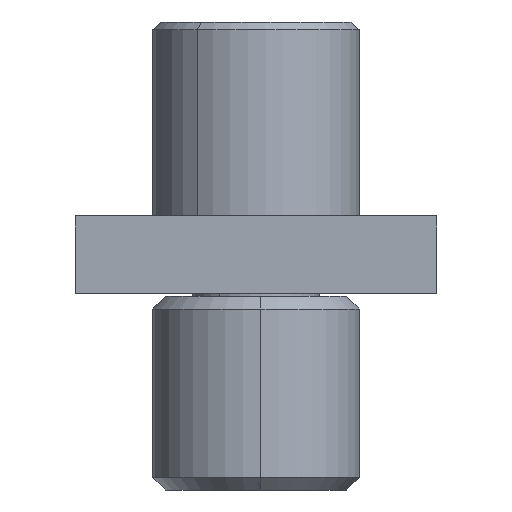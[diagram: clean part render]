
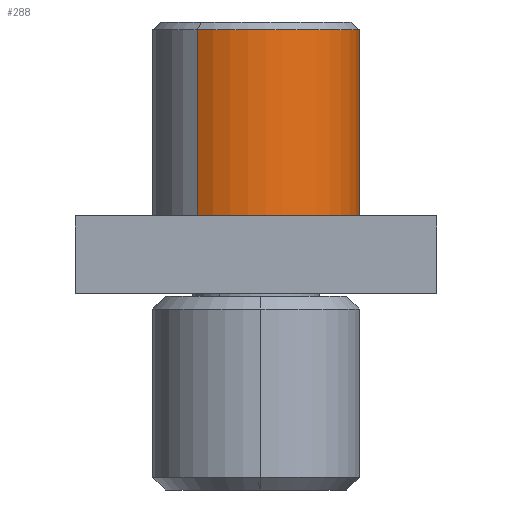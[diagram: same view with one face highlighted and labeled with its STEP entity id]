
A CAD part, left-side view. The second image highlights one B-rep face of the part: STEP entity #288.
In plain terms, the highlighted cylindrical face has radius 4 mm (diameter 8 mm), a partial arc.
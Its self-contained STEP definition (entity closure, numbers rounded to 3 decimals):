
#3 = EDGE_LOOP ( 'NONE', ( #184, #642, #753, #820 ) ) ;
#35 = VERTEX_POINT ( 'NONE', #172 ) ;
#87 = CIRCLE ( 'NONE', #1186, 4. ) ;
#93 = VERTEX_POINT ( 'NONE', #493 ) ;
#110 = EDGE_CURVE ( 'NONE', #212, #1439, #1199, .T. ) ;
#172 = CARTESIAN_POINT ( 'NONE',  ( 0., 4., -0.3 ) ) ;
#184 = ORIENTED_EDGE ( 'NONE', *, *, #1203, .F. ) ;
#185 = CARTESIAN_POINT ( 'NONE',  ( 0., 4., -18.1 ) ) ;
#204 = DIRECTION ( 'NONE',  ( 0., 1., 0. ) ) ;
#212 = VERTEX_POINT ( 'NONE', #869 ) ;
#226 = CARTESIAN_POINT ( 'NONE',  ( 0., 0., -7.5 ) ) ;
#255 = EDGE_CURVE ( 'NONE', #35, #1439, #723, .T. ) ;
#288 = ADVANCED_FACE ( 'NONE', ( #372 ), #704, .T. ) ;
#289 = DIRECTION ( 'NONE',  ( 0., 0., -1. ) ) ;
#307 = CARTESIAN_POINT ( 'NONE',  ( 0., -4., -18.1 ) ) ;
#315 = CARTESIAN_POINT ( 'NONE',  ( 0., 4., -7.5 ) ) ;
#344 = DIRECTION ( 'NONE',  ( 0., 1., 0. ) ) ;
#372 = FACE_OUTER_BOUND ( 'NONE', #3, .T. ) ;
#431 = DIRECTION ( 'NONE',  ( 0., 0., -1. ) ) ;
#493 = CARTESIAN_POINT ( 'NONE',  ( 0., -4., -0.3 ) ) ;
#557 = DIRECTION ( 'NONE',  ( 0., 0., -1. ) ) ;
#560 = CARTESIAN_POINT ( 'NONE',  ( 0., 0., -0.3 ) ) ;
#642 = ORIENTED_EDGE ( 'NONE', *, *, #1282, .T. ) ;
#695 = LINE ( 'NONE', #307, #734 ) ;
#704 = CYLINDRICAL_SURFACE ( 'NONE', #1007, 4. ) ;
#723 = LINE ( 'NONE', #185, #985 ) ;
#734 = VECTOR ( 'NONE', #1346, 1000. ) ;
#753 = ORIENTED_EDGE ( 'NONE', *, *, #255, .T. ) ;
#820 = ORIENTED_EDGE ( 'NONE', *, *, #110, .F. ) ;
#869 = CARTESIAN_POINT ( 'NONE',  ( 0., -4., -7.5 ) ) ;
#985 = VECTOR ( 'NONE', #431, 1000. ) ;
#1007 = AXIS2_PLACEMENT_3D ( 'NONE', #1117, #557, #204 ) ;
#1038 = DIRECTION ( 'NONE',  ( 0., 0., -1. ) ) ;
#1092 = DIRECTION ( 'NONE',  ( 0., 1., 0. ) ) ;
#1117 = CARTESIAN_POINT ( 'NONE',  ( 0., 0., -18.1 ) ) ;
#1145 = AXIS2_PLACEMENT_3D ( 'NONE', #226, #1038, #344 ) ;
#1186 = AXIS2_PLACEMENT_3D ( 'NONE', #560, #289, #1092 ) ;
#1199 = CIRCLE ( 'NONE', #1145, 4. ) ;
#1203 = EDGE_CURVE ( 'NONE', #93, #212, #695, .T. ) ;
#1282 = EDGE_CURVE ( 'NONE', #93, #35, #87, .T. ) ;
#1346 = DIRECTION ( 'NONE',  ( 0., 0., -1. ) ) ;
#1439 = VERTEX_POINT ( 'NONE', #315 ) ;
